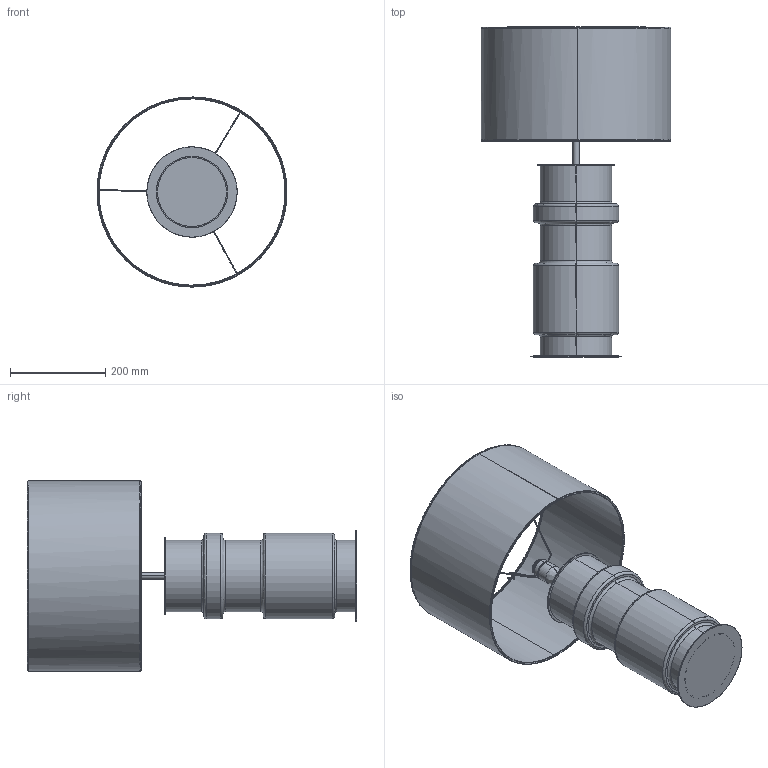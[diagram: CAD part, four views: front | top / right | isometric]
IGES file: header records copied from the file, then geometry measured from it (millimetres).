
Start section: SolidWorks IGES file using analytic representation for surfaces
Global section: file name: C:\Users\Agustin\Desktop\COMPARTIDA\NUEVO PRODUCTO\IFAVIDRIO\3D\ZURC_NAC153.IGS; native system: SolidWorks 2023; preprocessor: SolidWorks 2023; author: Agustin; date: 260618.132929; units: millimetre
Bounding box: 399.69 x 694 x 399.91 mm (x, y, z)
Surface area: 1164076.3 mm2 (no closed solid volume)
Topology: 0 solids, 0 shells, 202 faces, 4085 edges, 4085 vertices
Faces by surface type: bspline 186, revolution 16
